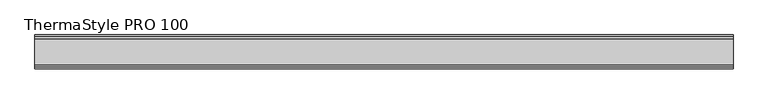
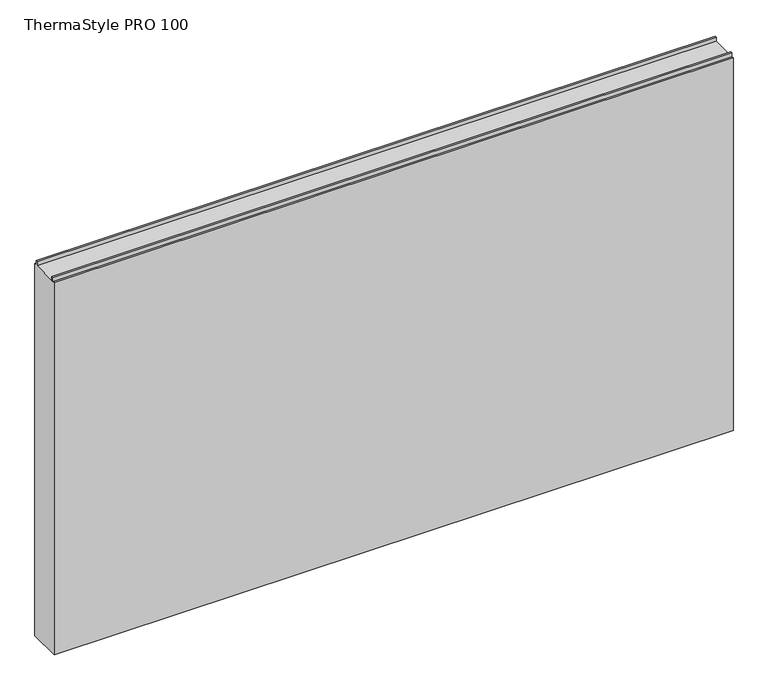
"""IFC4 building model written with IfcOpenShell, lengths in millimetres: plate geometry, Europanels_ThermaStyle PRO_Hz : ThermaStyle PRO 100."""

from ifc_helpers import new_model, si_unit, frame, origin, place, context, project, spatial, polyline, outline, extrude, source, transform, mapped, element, save


def thermastyle_pro_100_93a10a88(model_context):
    return source(origin(), model_context, "Body", "SweptSolid", [
        extrude(outline(polyline([(50.0, 1189.0), (50.0, 0.0), (-50.0, 0.0), (-50.0, 1189.0), (-44.0, 1189.0), (-44.0, 1201.9631544), (-38.8855682, 1201.9631544), (-38.8855682, 1189.0), (38.8855682, 1189.0), (38.8855682, 1201.9631544), (44.0, 1201.9631544), (44.0, 1189.0), (50.0, 1189.0)])), frame((-1025.0, 0.0, 0.0), z_axis=(1.0, 0.0, 0.0), x_axis=(0.0, 1.0, 0.0)), (0.0, 0.0, 1.0), 2050.0),
    ])


if __name__ == "__main__":
    model = new_model("IFC4")
    model_context = context("Model", 3, world=origin())
    ifc_project = project(units=[si_unit("LENGTHUNIT", "METRE", prefix="MILLI")], contexts=[model_context])
    site = spatial("IfcSite", under=ifc_project)
    building = spatial("IfcBuilding", under=site)
    placement = place(None, origin())
    thermastyle_pro_100_shape = thermastyle_pro_100_93a10a88(model_context)
    element("IfcPlate", 1, ObjectType="Europanels_ThermaStyle PRO_Hz : ThermaStyle PRO 100", at=placement, inside=building, context=model_context, shape_type="MappedRepresentation", body=[
        mapped(thermastyle_pro_100_shape, transform((0.0, 0.0, 0.0), x_axis=(1.0, 0.0, 0.0), y_axis=(0.0, 1.0, 0.0), z_axis=(0.0, 0.0, 1.0))),
    ])
    save(model, "model.ifc")
